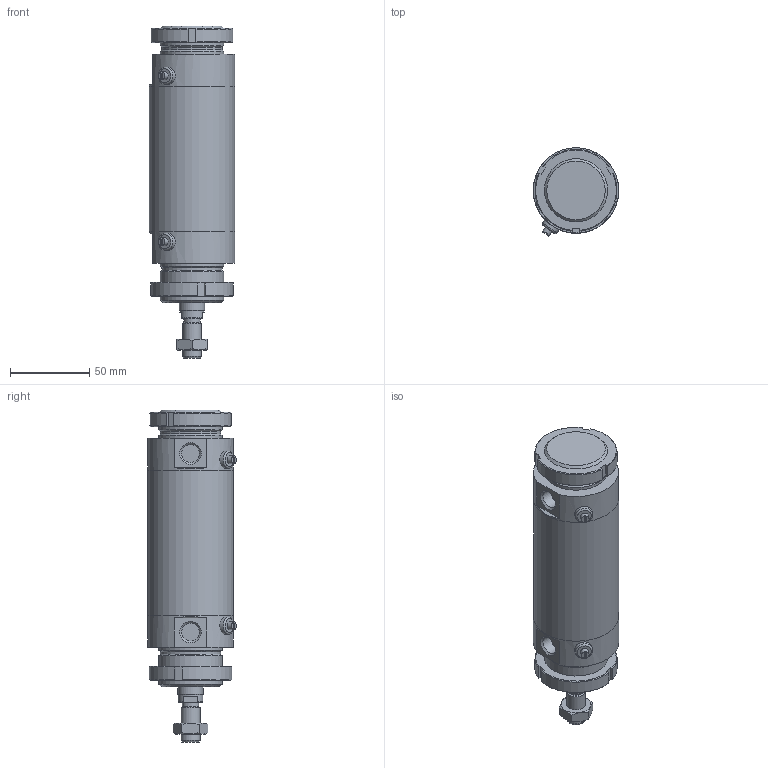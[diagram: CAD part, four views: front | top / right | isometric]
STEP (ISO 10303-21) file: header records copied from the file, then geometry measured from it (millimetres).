
FILE_DESCRIPTION(/* description */ (''),/* implementation_level */ '2;1');
FILE_NAME(/* name */ 'I:\Area Tecnica\Documenti\A-Manieri\_Inventor\12X\12X#C_###_####_#_#\12XBC_050_0050_#_#.stp',/* time_stamp */ '2015-04-28T15:43:34+02:00',/* author */ ('maniean1'),/* organization */ ('Pneumax S.p.A.'),/* preprocessor_version */ 'ST-DEVELOPER v15.2',/* originating_system */ 'Autodesk Inventor 2014',/* authorisation */ '');
FILE_SCHEMA (('CONFIG_CONTROL_DESIGN','AUTOMOTIVE_DESIGN { 1 0 10303 214 3 1 1 }'));
Length unit declared in the file: millimetre
Products named in the file (7): C1250_619-0050; 12X50_606; S12X50_0050; 12X_50_11; 12X50_621; G12X_050_05; 12XBC_050_0050_#_#
Bounding box: 54 x 55.88 x 210 mm (x, y, z)
Volume: 288522 mm3; surface area: 80873.2 mm2
Topology: 7 solids, 7 shells, 124 faces, 282 edges, 182 vertices
Faces by surface type: plane 64, cylinder 31, cone 27, torus 2
Full cylindrical faces by diameter (mm): 5 x2, 10.2 x1, 11 x2, 11.4 x2, 12 x2, 14 x1, 15.6 x1, 16 x1, 38.2 x2, 40 x6, 50 x2, 54 x3
Entity records: 2755 total; most frequent: CARTESIAN_POINT 553, DIRECTION 462, ORIENTED_EDGE 356, AXIS2_PLACEMENT_3D 197, EDGE_CURVE 178, EDGE_LOOP 160, VERTEX_POINT 136, ADVANCED_FACE 103
